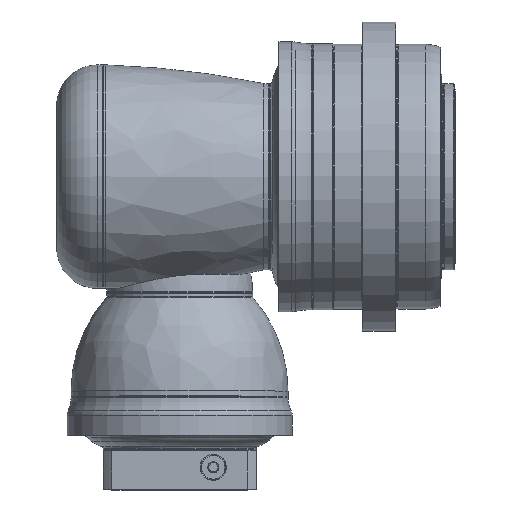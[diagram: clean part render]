
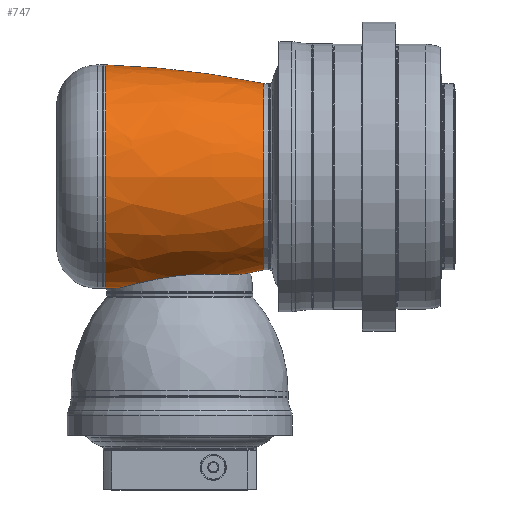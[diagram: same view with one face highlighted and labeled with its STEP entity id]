
A CAD part, top view. The second image highlights one B-rep face of the part: STEP entity #747.
In plain terms, the highlighted free-form (B-spline) face has degree [3, 3] with [7, 4] control points.
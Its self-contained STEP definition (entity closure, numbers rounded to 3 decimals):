
#162=CARTESIAN_POINT('',(-138.857,1099.364,
0.));
#163=DIRECTION('',(0.,0.,-1.));
#164=DIRECTION('',(0.201,-0.979,0.));
#165=AXIS2_PLACEMENT_3D('',#162,#163,#164);
#172=CARTESIAN_POINT('',(-138.857,-1099.364,
0.));
#173=DIRECTION('',(0.,0.,1.));
#174=DIRECTION('',(0.201,0.979,0.));
#175=AXIS2_PLACEMENT_3D('',#172,#173,#174);
#177=CARTESIAN_POINT('',(-138.857,1099.364,
0.));
#178=DIRECTION('',(0.,0.,-1.));
#179=DIRECTION('',(0.041,-0.999,0.));
#180=AXIS2_PLACEMENT_3D('',#177,#178,#179);
#182=CARTESIAN_POINT('',(113.,0.,0.));
#183=DIRECTION('',(1.,0.,0.));
#184=DIRECTION('',(0.,1.,0.));
#185=AXIS2_PLACEMENT_3D('',#182,#183,#184);
#187=CARTESIAN_POINT('',(-87.976,-149.6,
0.));
#188=CARTESIAN_POINT('',(-86.241,-149.529,3.544));
#189=CARTESIAN_POINT('',(-82.293,-149.11,10.51));
#190=CARTESIAN_POINT('',(-74.783,-147.69,20.488));
#191=CARTESIAN_POINT('',(-66.077,-145.687,29.314));
#192=CARTESIAN_POINT('',(-56.29,-143.305,36.904));
#193=CARTESIAN_POINT('',(-45.531,-140.737,43.157));
#194=CARTESIAN_POINT('',(-33.777,-138.149,48.014));
#195=CARTESIAN_POINT('',(-21.468,-135.788,51.264));
#196=CARTESIAN_POINT('',(-8.904,-133.825,52.852));
#197=CARTESIAN_POINT('',(2.443,-132.473,52.882));
#198=CARTESIAN_POINT('',(12.87,-131.559,51.857));
#199=CARTESIAN_POINT('',(24.353,-130.931,49.458));
#200=CARTESIAN_POINT('',(35.359,-130.692,45.756));
#201=CARTESIAN_POINT('',(45.703,-130.733,40.898));
#202=CARTESIAN_POINT('',(55.063,-130.931,35.118));
#203=CARTESIAN_POINT('',(63.742,-131.164,28.303));
#204=CARTESIAN_POINT('',(71.964,-131.31,20.099));
#205=CARTESIAN_POINT('',(79.444,-131.155,10.316));
#206=CARTESIAN_POINT('',(83.302,-130.737,3.495));
#207=CARTESIAN_POINT('',(84.987,-130.43,
0.));
#249=CARTESIAN_POINT('',(-99.,0.,0.));
#250=DIRECTION('',(1.,0.,0.));
#251=DIRECTION('',(0.,1.,0.));
#252=AXIS2_PLACEMENT_3D('',#249,#250,#251);
#519=CARTESIAN_POINT('',(113.,125.,0.));
#520=CARTESIAN_POINT('',(-99.,150.,0.));
#521=VERTEX_POINT('',#519);
#522=VERTEX_POINT('',#520);
#523=CARTESIAN_POINT('',(113.,-125.,0.));
#524=VERTEX_POINT('',#523);
#525=CARTESIAN_POINT('',(84.987,-130.43,
0.));
#526=VERTEX_POINT('',#525);
#527=CARTESIAN_POINT('',(-87.976,-149.6,
0.));
#528=CARTESIAN_POINT('',(-99.,-150.,0.));
#529=VERTEX_POINT('',#527);
#530=VERTEX_POINT('',#528);
#707=CARTESIAN_POINT('',(-103.273,149.833,-9.427));
#708=CARTESIAN_POINT('',(-29.112,147.725,-9.294));
#709=CARTESIAN_POINT('',(44.568,139.053,-8.748));
#710=CARTESIAN_POINT('',(117.185,123.887,-7.794));
#711=CARTESIAN_POINT('',(-103.273,155.634,82.78));
#712=CARTESIAN_POINT('',(-29.112,153.444,81.616));
#713=CARTESIAN_POINT('',(44.568,144.437,76.825));
#714=CARTESIAN_POINT('',(117.185,128.683,68.445));
#715=CARTESIAN_POINT('',(-103.273,92.389,150.129));
#716=CARTESIAN_POINT('',(-29.112,91.089,148.017));
#717=CARTESIAN_POINT('',(44.568,85.742,139.328));
#718=CARTESIAN_POINT('',(117.185,76.39,124.132));
#719=CARTESIAN_POINT('',(-103.273,0.,
150.129));
#720=CARTESIAN_POINT('',(-29.112,0.,
148.017));
#721=CARTESIAN_POINT('',(44.568,0.,
139.328));
#722=CARTESIAN_POINT('',(117.185,0.,
124.132));
#723=CARTESIAN_POINT('',(-103.273,-92.389,150.129));
#724=CARTESIAN_POINT('',(-29.112,-91.089,148.017));
#725=CARTESIAN_POINT('',(44.568,-85.742,139.328));
#726=CARTESIAN_POINT('',(117.185,-76.39,124.132));
#727=CARTESIAN_POINT('',(-103.273,-155.634,82.78));
#728=CARTESIAN_POINT('',(-29.112,-153.444,81.616));
#729=CARTESIAN_POINT('',(44.568,-144.437,76.825));
#730=CARTESIAN_POINT('',(117.185,-128.683,68.445));
#731=CARTESIAN_POINT('',(-103.273,-149.833,
-9.427));
#732=CARTESIAN_POINT('',(-29.112,-147.725,
-9.294));
#733=CARTESIAN_POINT('',(44.568,-139.053,-8.748));
#734=CARTESIAN_POINT('',(117.185,-123.887,-7.794));
#735=(BOUNDED_SURFACE()B_SPLINE_SURFACE(3,3,((#707,#708,#709,#710),(#711,#712,
#713,#714),(#715,#716,#717,#718),(#719,#720,#721,#722),(#723,#724,#725,#726),(
#727,#728,#729,#730),(#731,#732,#733,#734)),.UNSPECIFIED.,.F.,.F.,.F.)B_SPLINE_SURFACE_WITH_KNOTS((4,3,4),(4,4),(0.,1.,2.),(0.,1.),.UNSPECIFIED.)GEOMETRIC_REPRESENTATION_ITEM()RATIONAL_B_SPLINE_SURFACE(((1.19,
1.186,1.186,1.19),(0.939,
0.937,0.937,0.939),(0.939,
0.937,0.937,0.939),(1.19,
1.186,1.186,1.19),(0.939,
0.937,0.937,0.939),(0.939,
0.937,0.937,0.939),(1.19,
1.186,1.186,1.19)))REPRESENTATION_ITEM('')SURFACE());
#736=ORIENTED_EDGE('',*,*,#689,.T.);
#738=ORIENTED_EDGE('',*,*,#737,.F.);
#739=ORIENTED_EDGE('',*,*,#697,.T.);
#741=ORIENTED_EDGE('',*,*,#740,.F.);
#742=ORIENTED_EDGE('',*,*,#693,.F.);
#744=ORIENTED_EDGE('',*,*,#743,.T.);
#745=EDGE_LOOP('',(#736,#738,#739,#741,#742,#744));
#746=FACE_OUTER_BOUND('',#745,.F.);
#747=ADVANCED_FACE('',(#746),#735,.T.);
#166=CIRCLE('',#165,1250.);
#176=CIRCLE('',#175,1250.);
#181=CIRCLE('',#180,1250.);
#186=CIRCLE('',#185,125.);
#208=B_SPLINE_CURVE_WITH_KNOTS('',3,(#187,#188,#189,#190,#191,#192,#193,#194,
#195,#196,#197,#198,#199,#200,#201,#202,#203,#204,#205,#206,#207),.UNSPECIFIED.,
.F.,.F.,(4,1,1,1,1,1,1,1,1,1,1,1,1,1,1,1,1,1,4),(0.,0.056,
0.111,0.167,0.222,0.278,
0.333,0.389,0.444,0.5,0.556,
0.611,0.667,0.722,0.778,
0.833,0.889,0.944,1.),.UNSPECIFIED.);
#253=CIRCLE('',#252,150.);
#689=EDGE_CURVE('',#524,#526,#166,.T.);
#693=EDGE_CURVE('',#521,#522,#176,.T.);
#697=EDGE_CURVE('',#529,#530,#181,.T.);
#737=EDGE_CURVE('',#529,#526,#208,.T.);
#740=EDGE_CURVE('',#522,#530,#253,.T.);
#743=EDGE_CURVE('',#521,#524,#186,.T.);
